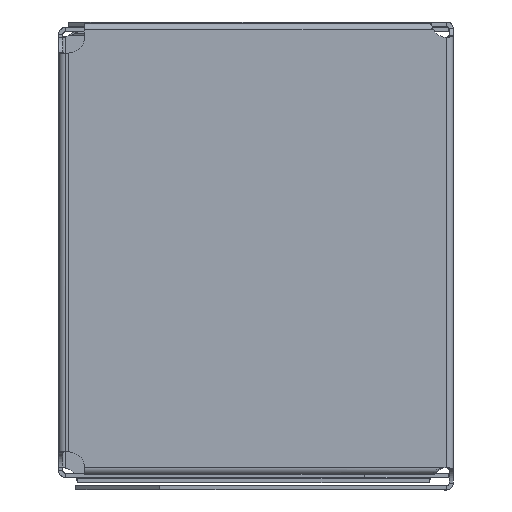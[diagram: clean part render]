
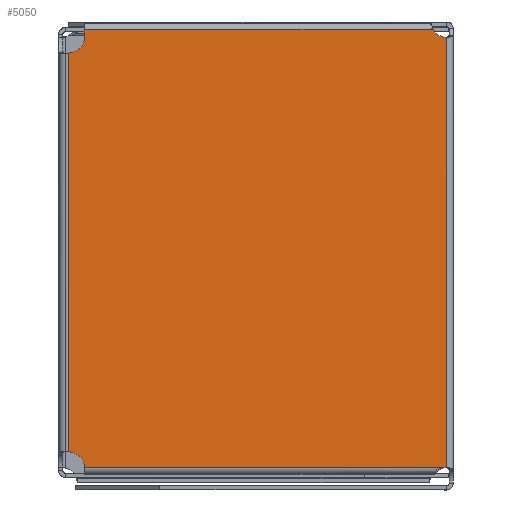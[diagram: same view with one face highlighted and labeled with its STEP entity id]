
A CAD part, front view. The second image highlights one B-rep face of the part: STEP entity #5050.
In plain terms, the highlighted planar face has unit normal (0, -1, 0).
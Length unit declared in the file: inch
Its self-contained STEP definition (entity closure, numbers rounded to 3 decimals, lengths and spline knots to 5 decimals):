
#664 = CARTESIAN_POINT ( 'NONE',  ( 9.25113, -2.21742, -38.48034 ) ) ;
#777 = VECTOR ( 'NONE', #5020, 39.37008 ) ;
#876 = DIRECTION ( 'NONE',  ( -1., 0., 0. ) ) ;
#944 = PLANE ( 'NONE',  #9081 ) ;
#1556 = VECTOR ( 'NONE', #11420, 39.37008 ) ;
#1600 = ORIENTED_EDGE ( 'NONE', *, *, #2111, .T. ) ;
#1721 = DIRECTION ( 'NONE',  ( 0., 0., 1. ) ) ;
#1747 = CARTESIAN_POINT ( 'NONE',  ( 4.9701, -2.21742, -38.48034 ) ) ;
#1778 = VERTEX_POINT ( 'NONE', #7635 ) ;
#1862 = CARTESIAN_POINT ( 'NONE',  ( 4.91519, -2.21742, -38.34507 ) ) ;
#1975 = B_SPLINE_CURVE_WITH_KNOTS ( 'NONE', 3,
 ( #12523, #11416, #5636, #11485 ),
 .UNSPECIFIED., .F., .F.,
 ( 4, 4 ),
 ( 1., 2. ),
 .UNSPECIFIED. ) ;
#2021 = VECTOR ( 'NONE', #7432, 39.37008 ) ;
#2111 = EDGE_CURVE ( 'NONE', #11236, #9308, #7751, .T. ) ;
#2113 = LINE ( 'NONE', #7897, #8066 ) ;
#2351 = CARTESIAN_POINT ( 'NONE',  ( 4.96978, -2.21742, -33.45658 ) ) ;
#2780 = B_SPLINE_CURVE_WITH_KNOTS ( 'NONE', 3,
 ( #5852, #8885, #6775, #10655 ),
 .UNSPECIFIED., .F., .F.,
 ( 4, 4 ),
 ( 0.35462, 1. ),
 .UNSPECIFIED. ) ;
#3191 = CARTESIAN_POINT ( 'NONE',  ( 4.9701, -2.21742, -43.16511 ) ) ;
#3325 = VERTEX_POINT ( 'NONE', #5326 ) ;
#3395 = CARTESIAN_POINT ( 'NONE',  ( 4.9701, -2.21742, -33.35268 ) ) ;
#3432 = CARTESIAN_POINT ( 'NONE',  ( 9.2826, -2.21742, -38.47765 ) ) ;
#3621 = CARTESIAN_POINT ( 'NONE',  ( 9.26136, -2.21742, -38.4786 ) ) ;
#3697 = VERTEX_POINT ( 'NONE', #8243 ) ;
#3817 = VERTEX_POINT ( 'NONE', #4098 ) ;
#3866 = DIRECTION ( 'NONE',  ( -1., 0., 0. ) ) ;
#4098 = CARTESIAN_POINT ( 'NONE',  ( 4.7826, -2.21742, -33.54018 ) ) ;
#4196 = EDGE_CURVE ( 'NONE', #3325, #3697, #1975, .T. ) ;
#4405 = LINE ( 'NONE', #12386, #9971 ) ;
#4552 = ORIENTED_EDGE ( 'NONE', *, *, #4196, .F. ) ;
#4558 = EDGE_CURVE ( 'NONE', #3817, #6017, #10592, .T. ) ;
#4733 = CARTESIAN_POINT ( 'NONE',  ( 4.91519, -2.21742, -38.48034 ) ) ;
#5020 = DIRECTION ( 'NONE',  ( 0., 0., 1. ) ) ;
#5050 = ADVANCED_FACE ( 'NONE', ( #7899 ), #944, .F. ) ;
#5210 = EDGE_CURVE ( 'NONE', #11236, #7009, #6180, .T. ) ;
#5238 = EDGE_CURVE ( 'NONE', #6017, #1778, #7416, .T. ) ;
#5326 = CARTESIAN_POINT ( 'NONE',  ( 4.9701, -2.21742, -38.47765 ) ) ;
#5577 = CARTESIAN_POINT ( 'NONE',  ( 9.27187, -2.21742, -38.47768 ) ) ;
#5636 = CARTESIAN_POINT ( 'NONE',  ( 4.8865, -2.21742, -38.2905 ) ) ;
#5852 = CARTESIAN_POINT ( 'NONE',  ( 9.12396, -2.21742, -33.26516 ) ) ;
#6017 = VERTEX_POINT ( 'NONE', #3395 ) ;
#6180 = B_SPLINE_CURVE_WITH_KNOTS ( 'NONE', 3,
 ( #3432, #5577, #3621, #664 ),
 .UNSPECIFIED., .F., .F.,
 ( 4, 4 ),
 ( 0., 0.10331 ),
 .UNSPECIFIED. ) ;
#6424 = CARTESIAN_POINT ( 'NONE',  ( 9.2826, -2.21742, -38.47765 ) ) ;
#6444 = EDGE_CURVE ( 'NONE', #7009, #7755, #10326, .T. ) ;
#6775 = CARTESIAN_POINT ( 'NONE',  ( 9.21554, -2.21742, -33.35247 ) ) ;
#6891 = ORIENTED_EDGE ( 'NONE', *, *, #6444, .F. ) ;
#7009 = VERTEX_POINT ( 'NONE', #7793 ) ;
#7121 = EDGE_CURVE ( 'NONE', #7755, #3325, #8051, .T. ) ;
#7330 = CARTESIAN_POINT ( 'NONE',  ( 4.7826, -2.21742, -33.54018 ) ) ;
#7416 = LINE ( 'NONE', #11675, #1556 ) ;
#7432 = DIRECTION ( 'NONE',  ( -1., 0., 0. ) ) ;
#7635 = CARTESIAN_POINT ( 'NONE',  ( 4.9701, -2.21742, -33.26516 ) ) ;
#7751 = LINE ( 'NONE', #8676, #10335 ) ;
#7755 = VERTEX_POINT ( 'NONE', #1747 ) ;
#7793 = CARTESIAN_POINT ( 'NONE',  ( 9.25113, -2.21742, -38.48034 ) ) ;
#7897 = CARTESIAN_POINT ( 'NONE',  ( 4.7826, -2.21742, -33.54018 ) ) ;
#7899 = FACE_OUTER_BOUND ( 'NONE', #9558, .T. ) ;
#8051 = LINE ( 'NONE', #3191, #777 ) ;
#8066 = VECTOR ( 'NONE', #11091, 39.37008 ) ;
#8243 = CARTESIAN_POINT ( 'NONE',  ( 4.7826, -2.21742, -38.29016 ) ) ;
#8676 = CARTESIAN_POINT ( 'NONE',  ( 9.2826, -2.21742, -38.34507 ) ) ;
#8824 = ORIENTED_EDGE ( 'NONE', *, *, #12750, .T. ) ;
#8885 = CARTESIAN_POINT ( 'NONE',  ( 9.15708, -2.21742, -33.31772 ) ) ;
#9081 = AXIS2_PLACEMENT_3D ( 'NONE', #1862, #9868, #876 ) ;
#9168 = CARTESIAN_POINT ( 'NONE',  ( 9.12396, -2.21742, -33.26516 ) ) ;
#9190 = EDGE_CURVE ( 'NONE', #11523, #9308, #2780, .T. ) ;
#9308 = VERTEX_POINT ( 'NONE', #10977 ) ;
#9558 = EDGE_LOOP ( 'NONE', ( #11552, #8824, #12700, #10689, #9975, #4552, #11466, #6891, #12688, #1600 ) ) ;
#9868 = DIRECTION ( 'NONE',  ( 0., 1., 0. ) ) ;
#9971 = VECTOR ( 'NONE', #3866, 39.37008 ) ;
#9975 = ORIENTED_EDGE ( 'NONE', *, *, #12589, .F. ) ;
#10326 = LINE ( 'NONE', #4733, #2021 ) ;
#10335 = VECTOR ( 'NONE', #1721, 39.37008 ) ;
#10592 = B_SPLINE_CURVE_WITH_KNOTS ( 'NONE', 3,
 ( #7330, #11400, #2351, #12307 ),
 .UNSPECIFIED., .F., .F.,
 ( 4, 4 ),
 ( 0., 1. ),
 .UNSPECIFIED. ) ;
#10655 = CARTESIAN_POINT ( 'NONE',  ( 9.2826, -2.21742, -33.35268 ) ) ;
#10689 = ORIENTED_EDGE ( 'NONE', *, *, #4558, .F. ) ;
#10977 = CARTESIAN_POINT ( 'NONE',  ( 9.2826, -2.21742, -33.35268 ) ) ;
#11091 = DIRECTION ( 'NONE',  ( 0., 0., 1. ) ) ;
#11236 = VERTEX_POINT ( 'NONE', #6424 ) ;
#11400 = CARTESIAN_POINT ( 'NONE',  ( 4.88649, -2.21742, -33.53986 ) ) ;
#11416 = CARTESIAN_POINT ( 'NONE',  ( 4.96977, -2.21742, -38.37375 ) ) ;
#11420 = DIRECTION ( 'NONE',  ( 0., 0., 1. ) ) ;
#11466 = ORIENTED_EDGE ( 'NONE', *, *, #7121, .F. ) ;
#11485 = CARTESIAN_POINT ( 'NONE',  ( 4.7826, -2.21742, -38.29016 ) ) ;
#11523 = VERTEX_POINT ( 'NONE', #9168 ) ;
#11552 = ORIENTED_EDGE ( 'NONE', *, *, #9190, .F. ) ;
#11675 = CARTESIAN_POINT ( 'NONE',  ( 4.9701, -2.21742, -28.66525 ) ) ;
#12307 = CARTESIAN_POINT ( 'NONE',  ( 4.9701, -2.21742, -33.35268 ) ) ;
#12386 = CARTESIAN_POINT ( 'NONE',  ( 4.91519, -2.21742, -33.26516 ) ) ;
#12523 = CARTESIAN_POINT ( 'NONE',  ( 4.9701, -2.21742, -38.47765 ) ) ;
#12589 = EDGE_CURVE ( 'NONE', #3697, #3817, #2113, .T. ) ;
#12688 = ORIENTED_EDGE ( 'NONE', *, *, #5210, .F. ) ;
#12700 = ORIENTED_EDGE ( 'NONE', *, *, #5238, .F. ) ;
#12750 = EDGE_CURVE ( 'NONE', #11523, #1778, #4405, .T. ) ;
